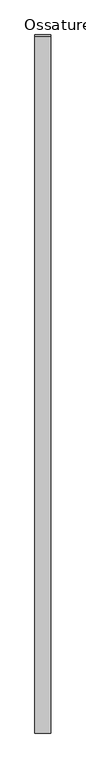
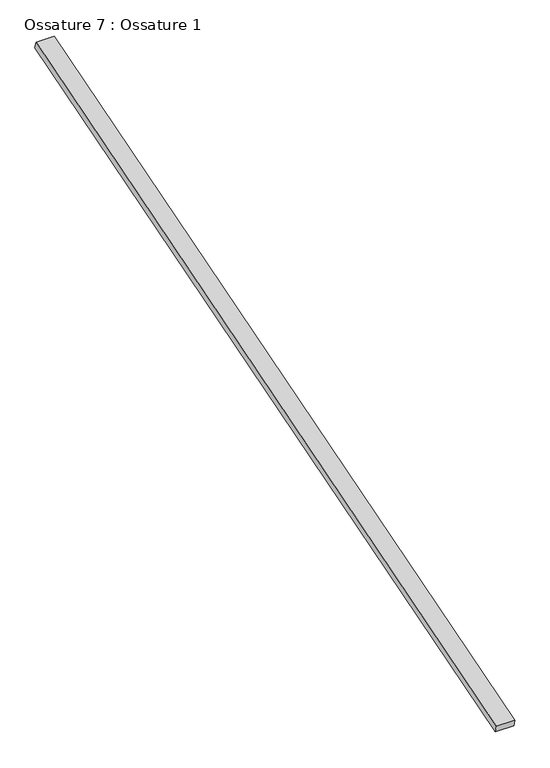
"""IFC4 building model written with IfcOpenShell, lengths in millimetres: beam geometry, Ossature 7 : Ossature 1."""

import ifcopenshell
import ifcopenshell.guid

model = None  # the IFC model being written
_history = None  # IfcOwnerHistory: only IFC2X3 demands one
_inside = {}  # id of a spatial element -> (the spatial element, [elements in it])
_under = {}  # id of a project, library or spatial element -> (it, [spatial elements below it])
_declared = {}  # id of a project -> (the project, [libraries it declares])
_typed = {}  # id of a type object -> (the type object, [elements of that type])
_made_of = {}  # id of a material, layer set ... -> (it, [elements and type objects made of it])


def new_model(schema):
    """Start an empty IFC model of exactly this schema.

    Asked for "IFC4X3", IfcOpenShell would pick the latest addendum, in which some entities
    have other attributes; the version numbers below select the first issue.
    IFC2X3 requires an IfcOwnerHistory on every rooted entity: one is made here for all.
    """
    global model, _history
    if schema == "IFC4X3":
        model = ifcopenshell.file(schema_version=(4, 3, 0, 0))
    else:
        model = ifcopenshell.file(schema=schema)
    _inside.clear()
    _under.clear()
    _declared.clear()
    _typed.clear()
    _made_of.clear()
    _history = None
    if model.schema == "IFC2X3":
        org = make("IfcOrganization", Name="unknown")
        user = make(
            "IfcPersonAndOrganization",
            ThePerson=make("IfcPerson", FamilyName="unknown"),
            TheOrganization=org,
        )
        app = make(
            "IfcApplication",
            ApplicationDeveloper=org,
            Version="unknown",
            ApplicationFullName="unknown",
            ApplicationIdentifier="unknown",
        )
        _history = make(
            "IfcOwnerHistory",
            OwningUser=user,
            OwningApplication=app,
            ChangeAction="ADDED",
            CreationDate=0,
        )
    return model


def make(cls, **values):
    """One entity of the class cls with the attributes given. An attribute that is None is left unset."""
    return model.create_entity(
        cls, **{name: value for name, value in values.items() if value is not None}
    )


def rooted(cls, **values):
    """An entity with a GlobalId (a new one), such as an element, a storey or a relation."""
    return make(cls, GlobalId=ifcopenshell.guid.new(), OwnerHistory=_history, **values)


def si_unit(unit_type, name, prefix=None):
    """IfcSIUnit, for example si_unit("LENGTHUNIT", "METRE", prefix="MILLI")."""
    return make("IfcSIUnit", UnitType=unit_type, Prefix=prefix, Name=name)


def assignment(units):
    """IfcUnitAssignment: the units of a project."""
    return None if units is None else make("IfcUnitAssignment", Units=units)


def point(xyz):
    """IfcCartesianPoint."""
    return None if xyz is None else make("IfcCartesianPoint", Coordinates=xyz)


def direction(xyz):
    """IfcDirection."""
    return None if xyz is None else make("IfcDirection", DirectionRatios=xyz)


def frame(location, z_axis=None, x_axis=None):
    """IfcAxis2Placement3D, a coordinate frame: its origin and axes. An axis left out is left unset."""
    return make(
        "IfcAxis2Placement3D",
        Location=point(location),
        Axis=direction(z_axis),
        RefDirection=direction(x_axis),
    )


def origin():
    """The frame at (0, 0, 0) with its axes left unset."""
    return frame((0.0, 0.0, 0.0))


def place(relative_to, where):
    """IfcLocalPlacement: puts the frame where relative to a parent placement (None: the world)."""
    return make(
        "IfcLocalPlacement", PlacementRelTo=relative_to, RelativePlacement=where
    )


def context(
    kind, dimensions, precision=None, world=None, true_north=None, identifier=None
):
    """IfcGeometricRepresentationContext, for example the 3D "Model" context."""
    return make(
        "IfcGeometricRepresentationContext",
        ContextIdentifier=identifier,
        ContextType=kind,
        CoordinateSpaceDimension=dimensions,
        Precision=precision,
        WorldCoordinateSystem=world,
        TrueNorth=true_north,
    )


def project(units=None, contexts=None):
    """IfcProject with its units and contexts."""
    return rooted(
        "IfcProject",
        Name="project",
        RepresentationContexts=contexts,
        UnitsInContext=assignment(units),
    )


def spatial(cls, under=None, at=None, **own):
    """A site, building, storey or space (cls), placed at a placement, below another one or the project."""
    s = rooted(cls, ObjectPlacement=at, **own)
    if under is not None:
        _under.setdefault(under.id(), (under, []))[1].append(s)
    return s


def polyline(points):
    """IfcPolyline through the points."""
    return make("IfcPolyline", Points=[point(p) for p in points])


def outline(outer, holes=None, kind="AREA"):
    """IfcArbitraryClosedProfileDef: a profile drawn as a closed curve; with holes, ...WithVoids."""
    if holes is None:
        return make("IfcArbitraryClosedProfileDef", ProfileType=kind, OuterCurve=outer)
    return make(
        "IfcArbitraryProfileDefWithVoids",
        ProfileType=kind,
        OuterCurve=outer,
        InnerCurves=holes,
    )


def extrude(swept, where, along, depth):
    """IfcExtrudedAreaSolid: the profile swept, set in the frame where, extruded along a direction by depth."""
    return make(
        "IfcExtrudedAreaSolid",
        SweptArea=swept,
        Position=where,
        ExtrudedDirection=direction(along),
        Depth=depth,
    )


def shape(context_of_items, identifier, shape_type, items):
    """IfcShapeRepresentation: the items that make up one representation, for example the "Body"."""
    return make(
        "IfcShapeRepresentation",
        ContextOfItems=context_of_items,
        RepresentationIdentifier=identifier,
        RepresentationType=shape_type,
        Items=items,
    )


def source(mapping_origin, context_of_items, identifier, shape_type, items):
    """IfcRepresentationMap: a shape defined once, which mapped items show again and again."""
    return make(
        "IfcRepresentationMap",
        MappingOrigin=mapping_origin,
        MappedRepresentation=shape(context_of_items, identifier, shape_type, items),
    )


def transform(
    local_origin,
    x_axis=None,
    y_axis=None,
    z_axis=None,
    scale=None,
    scale2=None,
    scale3=None,
    uniform=True,
):
    """IfcCartesianTransformationOperator3D, or its non-uniform kind. x_axis, y_axis, z_axis: its Axis1, 2, 3."""
    if uniform:
        return make(
            "IfcCartesianTransformationOperator3D",
            Axis1=direction(x_axis),
            Axis2=direction(y_axis),
            LocalOrigin=point(local_origin),
            Scale=scale,
            Axis3=direction(z_axis),
        )
    return make(
        "IfcCartesianTransformationOperator3DnonUniform",
        Axis1=direction(x_axis),
        Axis2=direction(y_axis),
        LocalOrigin=point(local_origin),
        Scale=scale,
        Axis3=direction(z_axis),
        Scale2=scale2,
        Scale3=scale3,
    )


def mapped(mapping_source, mapping_target):
    """IfcMappedItem: shows the shape of a source again, moved by a transform."""
    return make(
        "IfcMappedItem", MappingSource=mapping_source, MappingTarget=mapping_target
    )


def made_of(thing, what):
    """Note that an element or type object is made of a material, layer set ...; save() writes the relation."""
    if what is not None:
        _made_of.setdefault(what.id(), (what, []))[1].append(thing)
    return thing


def element(
    cls,
    number,
    at=None,
    inside=None,
    cuts=None,
    type_object=None,
    material=None,
    context=None,
    identifier="Body",
    shape_type=None,
    held_by="IfcProductDefinitionShape",
    body=None,
    shapes=None,
    **own,
):
    """One element of the class cls, such as IfcWall. Its Tag is "e" and its number.

    at: its placement. inside: the storey or other place that contains it. cuts: it is an
    opening in that element (IfcRelVoidsElement). A single representation is given by context,
    identifier, shape_type and body (its items); several are given by shapes. held_by: the class
    of the entity that holds the representations. save() writes the other relations.
    """
    e = rooted(cls, Tag="e%d" % number, ObjectPlacement=at, **own)
    if body is not None:
        shapes = [shape(context, identifier, shape_type, body)]
    if shapes is not None:
        e.Representation = make(held_by, Representations=shapes)
    if inside is not None:
        _inside.setdefault(inside.id(), (inside, []))[1].append(e)
    if cuts is not None:
        rooted(
            "IfcRelVoidsElement", RelatingBuildingElement=cuts, RelatedOpeningElement=e
        )
    if type_object is not None:
        _typed.setdefault(type_object.id(), (type_object, []))[1].append(e)
    return made_of(e, material)


def aggregate(whole, parts):
    """IfcRelAggregates: a whole, such as a stair, and the parts it consists of."""
    return rooted("IfcRelAggregates", RelatingObject=whole, RelatedObjects=parts)


def save(model, path):
    """Write the relations noted so far, then the file.

    IfcRelAggregates (storeys below a building ...), IfcRelContainedInSpatialStructure (elements
    in a storey), IfcRelDefinesByType, IfcRelAssociatesMaterial and IfcRelDeclares: one each for
    every whole, place, type object, material and project.
    """
    for whole, parts in _under.values():
        aggregate(whole, parts)
    for where, things in _inside.values():
        rooted(
            "IfcRelContainedInSpatialStructure",
            RelatedElements=things,
            RelatingStructure=where,
        )
    for kind, things in _typed.values():
        rooted("IfcRelDefinesByType", RelatedObjects=things, RelatingType=kind)
    for what, things in _made_of.values():
        rooted("IfcRelAssociatesMaterial", RelatedObjects=things, RelatingMaterial=what)
    for by, libraries in _declared.values():
        rooted("IfcRelDeclares", RelatingContext=by, RelatedDefinitions=libraries)
    model.write(path)


def ossature_7_ossature_1_5c517462(model_context):
    return source(origin(), model_context, "Body", "SweptSolid", [
        extrude(outline(polyline([(0.0, 0.0), (0.0, -4543.0299679), (-100.0, -4543.0299679), (-100.0, 0.0), (0.0, 0.0)])), frame((1980.2466393, -833.3913565, 8153.6336115), z_axis=(0.0, -0.28734788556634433, 0.9578262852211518), x_axis=(-1.0, 0.0, 0.0)), (0.0, 0.0, 1.0), 40.0),
    ])


if __name__ == "__main__":
    model = new_model("IFC4")
    model_context = context("Model", 3, world=origin())
    ifc_project = project(units=[si_unit("LENGTHUNIT", "METRE", prefix="MILLI")], contexts=[model_context])
    site = spatial("IfcSite", under=ifc_project)
    building = spatial("IfcBuilding", under=site)
    placement = place(None, origin())
    ossature_7_ossature_1_shape = ossature_7_ossature_1_5c517462(model_context)
    element("IfcBeam", 1, ObjectType="Ossature 7 : Ossature 1", at=placement, inside=building, context=model_context, shape_type="MappedRepresentation", body=[
        mapped(ossature_7_ossature_1_shape, transform((0.0, 0.0, 0.0), x_axis=(1.0, 0.0, 0.0), y_axis=(0.0, 1.0, 0.0), z_axis=(0.0, 0.0, 1.0))),
    ])
    save(model, "model.ifc")
